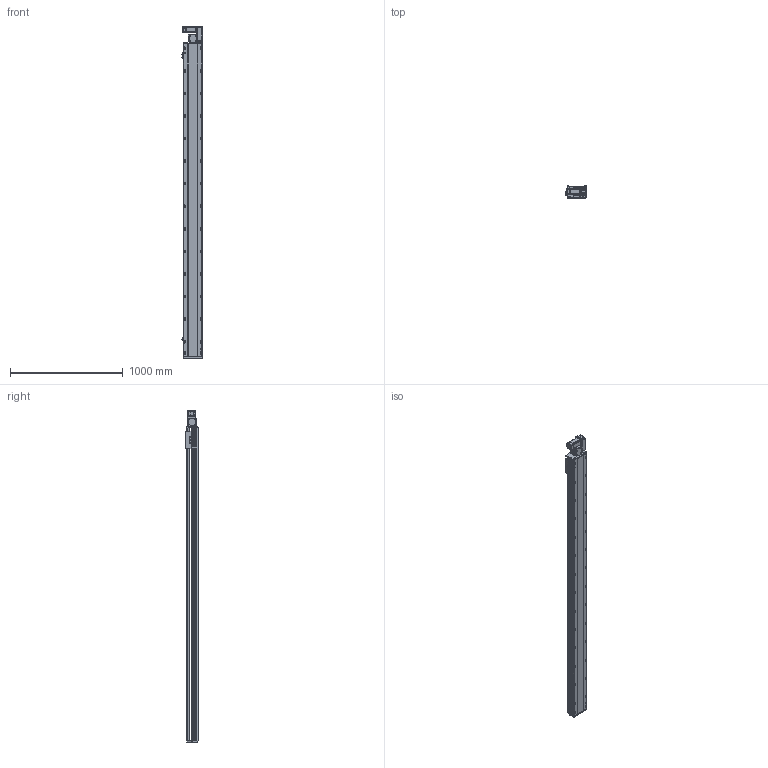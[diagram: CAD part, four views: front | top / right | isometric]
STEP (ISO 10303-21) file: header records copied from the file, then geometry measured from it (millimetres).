
FILE_DESCRIPTION (( 'STEP AP214' ), '1' );
FILE_NAME ('RTB17S-XX-2500-R-M40-C4.STEP', '2025-12-11T07:51:30', ( '' ), ( '' ), 'SwSTEP 2.0', 'SolidWorks 2018', '' );
FILE_SCHEMA (( 'AUTOMOTIVE_DESIGN' ));
Length unit declared in the file: millimetre
Products named in the file (14): RTB17S-R-々湍釱蚾饜-400W^RTB17S-XX-XX-R-M40-C4; RTB14-L-017P^RTB17S-R-々湍釱蚾饜-400W_RTB17S-XX-XX-R-M40-C4; OMRON EE-SX672 传感器^RTB17S-XX-XX-R-M40-C4; RTB14-L-008-M20--萇儂啣^RTB17S-R-々湍釱蚾饜-400W_RTB17S-XX-XX-R-M40-C4; RTB17S-L-001耜醱啣^RTB17S-XX-XX-R-M40-C4; RTH13-BL-012覜茼え俋离^RTB17S-XX-XX-R-M40-C4; RTB14-L-018P^RTB17S-R-々湍釱蚾饜-400W_RTB17S-XX-XX-R-M40-C4; RTB17S-L-004佪裝蹟譫蟀諉釱^RTB17S-XX-XX-R-M40-C4; 400W侜督萇儂^RTB17S-XX-XX-R-M40-C4; RTB17-R-011菁釱^RTB17S-XX-XX-R-M40-C4; RTB17S-XX-2500-R-M40-C4; RTB14-L-005P--轴承塑胶压盖^RTB17S-R-皮带座装配-400W_RTB17S-XX-XX-R-M40-C4; RTB17S-L-007奻裔^RTB17S-XX-XX-R-M40-C4; RTB17S-L-014-T20--々湍釱^RTB17S-R-々湍釱蚾饜-400W_RTB17S-XX-XX-R-M40-C4
Assembly tree (16 placements, depth 3):
  RTB17S-XX-2500-R-M40-C4
    RTB17-R-011菁釱^RTB17S-XX-XX-R-M40-C4
    RTB17S-L-007奻裔^RTB17S-XX-XX-R-M40-C4
    OMRON EE-SX672 传感器^RTB17S-XX-XX-R-M40-C4  x3
    RTB17S-L-001耜醱啣^RTB17S-XX-XX-R-M40-C4
    400W侜督萇儂^RTB17S-XX-XX-R-M40-C4
    RTB17S-L-004佪裝蹟譫蟀諉釱^RTB17S-XX-XX-R-M40-C4
    RTH13-BL-012覜茼え俋离^RTB17S-XX-XX-R-M40-C4
    RTB17S-R-々湍釱蚾饜-400W^RTB17S-XX-XX-R-M40-C4
      RTB17S-L-014-T20--々湍釱^RTB17S-R-々湍釱蚾饜-400W_RTB17S-XX-XX-R-M40-C4
      RTB14-L-005P--轴承塑胶压盖^RTB17S-R-皮带座装配-400W_RTB17S-XX-XX-R-M40-C4
      RTB14-L-008-M20--萇儂啣^RTB17S-R-々湍釱蚾饜-400W_RTB17S-XX-XX-R-M40-C4
      RTB14-L-017P^RTB17S-R-々湍釱蚾饜-400W_RTB17S-XX-XX-R-M40-C4  x2
      RTB14-L-018P^RTB17S-R-々湍釱蚾饜-400W_RTB17S-XX-XX-R-M40-C4
Bounding box: 183.5 x 108 x 2941 mm (x, y, z)
Volume: 24604101.7 mm3; surface area: 2832901.2 mm2
Topology: 15 solids, 15 shells, 2333 faces, 6519 edges, 4257 vertices
Faces by surface type: plane 1084, cylinder 801, bspline 301, cone 139, torus 8
Entity records: 68777 total; most frequent: CARTESIAN_POINT 19524, ORIENTED_EDGE 9882, DIRECTION 9116, EDGE_CURVE 4941, VERTEX_POINT 3245, AXIS2_PLACEMENT_3D 3175, VECTOR 2766, LINE 2766
